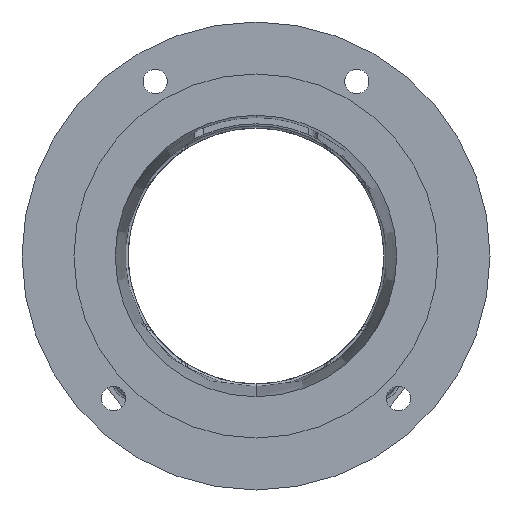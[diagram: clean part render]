
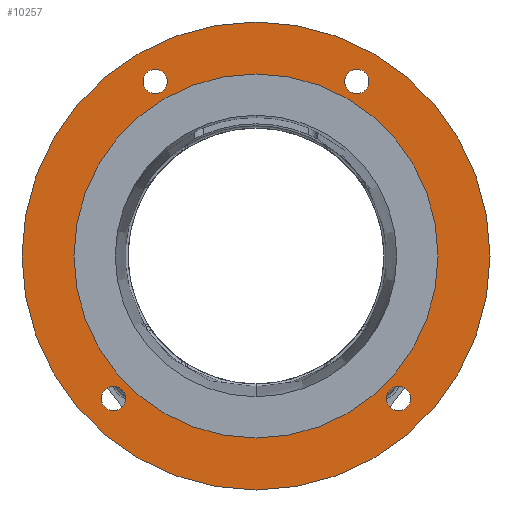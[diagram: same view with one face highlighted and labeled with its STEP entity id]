
A CAD part, front view. The second image highlights one B-rep face of the part: STEP entity #10257.
In plain terms, the highlighted planar face has unit normal (0, -1, 0).
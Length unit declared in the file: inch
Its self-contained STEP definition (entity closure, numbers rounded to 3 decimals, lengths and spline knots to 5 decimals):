
#20 = EDGE_LOOP ( 'NONE', ( #4956, #8640 ) ) ;
#156 = DIRECTION ( 'NONE',  ( 0., 0., -1. ) ) ;
#168 = CARTESIAN_POINT ( 'NONE',  ( 1.9375, 0., 3.12147 ) ) ;
#273 = EDGE_CURVE ( 'NONE', #1668, #497, #2331, .T. ) ;
#278 = CARTESIAN_POINT ( 'NONE',  ( -2.74004, 0., -2.74004 ) ) ;
#294 = CARTESIAN_POINT ( 'NONE',  ( -1.9375, 0., 3.35585 ) ) ;
#497 = VERTEX_POINT ( 'NONE', #168 ) ;
#561 = DIRECTION ( 'NONE',  ( 0., 0., -1. ) ) ;
#575 = AXIS2_PLACEMENT_3D ( 'NONE', #2040, #2021, #2014 ) ;
#588 = EDGE_LOOP ( 'NONE', ( #6639, #3210 ) ) ;
#719 = ORIENTED_EDGE ( 'NONE', *, *, #3630, .F. ) ;
#762 = AXIS2_PLACEMENT_3D ( 'NONE', #9439, #3372, #2975 ) ;
#848 = FACE_OUTER_BOUND ( 'NONE', #9440, .T. ) ;
#972 = VERTEX_POINT ( 'NONE', #8184 ) ;
#994 = VERTEX_POINT ( 'NONE', #8212 ) ;
#1114 = FACE_BOUND ( 'NONE', #10573, .T. ) ;
#1153 = CARTESIAN_POINT ( 'NONE',  ( 2.74004, 0., -2.97441 ) ) ;
#1162 = DIRECTION ( 'NONE',  ( 0., 0., -1. ) ) ;
#1177 = DIRECTION ( 'NONE',  ( 0., 0., -1. ) ) ;
#1219 = AXIS2_PLACEMENT_3D ( 'NONE', #294, #6179, #1177 ) ;
#1261 = AXIS2_PLACEMENT_3D ( 'NONE', #9243, #9221, #9185 ) ;
#1614 = CIRCLE ( 'NONE', #3424, 0.23438 ) ;
#1668 = VERTEX_POINT ( 'NONE', #3948 ) ;
#1856 = CIRCLE ( 'NONE', #3698, 3.501 ) ;
#2014 = DIRECTION ( 'NONE',  ( 0., 0., -1. ) ) ;
#2021 = DIRECTION ( 'NONE',  ( 0., -1., 0. ) ) ;
#2040 = CARTESIAN_POINT ( 'NONE',  ( 1.9375, 0., 3.35585 ) ) ;
#2081 = EDGE_LOOP ( 'NONE', ( #719, #5501 ) ) ;
#2180 = CARTESIAN_POINT ( 'NONE',  ( 0., 0., 4.5 ) ) ;
#2331 = CIRCLE ( 'NONE', #575, 0.23438 ) ;
#2744 = VERTEX_POINT ( 'NONE', #1153 ) ;
#2975 = DIRECTION ( 'NONE',  ( 0., 0., -1. ) ) ;
#3078 = AXIS2_PLACEMENT_3D ( 'NONE', #10135, #5237, #156 ) ;
#3133 = FACE_BOUND ( 'NONE', #9182, .T. ) ;
#3210 = ORIENTED_EDGE ( 'NONE', *, *, #3892, .F. ) ;
#3271 = EDGE_CURVE ( 'NONE', #9691, #5103, #8350, .T. ) ;
#3367 = DIRECTION ( 'NONE',  ( 0., 1., 0. ) ) ;
#3372 = DIRECTION ( 'NONE',  ( 0., -1., 0. ) ) ;
#3424 = AXIS2_PLACEMENT_3D ( 'NONE', #9001, #8985, #8960 ) ;
#3630 = EDGE_CURVE ( 'NONE', #497, #1668, #8759, .T. ) ;
#3698 = AXIS2_PLACEMENT_3D ( 'NONE', #5012, #4752, #4338 ) ;
#3709 = VERTEX_POINT ( 'NONE', #5403 ) ;
#3732 = CIRCLE ( 'NONE', #3778, 4.5 ) ;
#3778 = AXIS2_PLACEMENT_3D ( 'NONE', #5818, #5807, #5796 ) ;
#3892 = EDGE_CURVE ( 'NONE', #9831, #2744, #5028, .T. ) ;
#3948 = CARTESIAN_POINT ( 'NONE',  ( 1.9375, 0., 3.59022 ) ) ;
#3987 = CARTESIAN_POINT ( 'NONE',  ( -1.9375, 0., 3.12147 ) ) ;
#4048 = CIRCLE ( 'NONE', #1219, 0.23438 ) ;
#4313 = VERTEX_POINT ( 'NONE', #2180 ) ;
#4338 = DIRECTION ( 'NONE',  ( 0., 0., -1. ) ) ;
#4551 = EDGE_CURVE ( 'NONE', #5103, #9691, #1856, .T. ) ;
#4626 = DIRECTION ( 'NONE',  ( 0., 0., -1. ) ) ;
#4658 = DIRECTION ( 'NONE',  ( 0., -1., 0. ) ) ;
#4694 = CARTESIAN_POINT ( 'NONE',  ( 0., 0., 0. ) ) ;
#4716 = AXIS2_PLACEMENT_3D ( 'NONE', #4694, #4658, #4626 ) ;
#4752 = DIRECTION ( 'NONE',  ( 0., -1., 0. ) ) ;
#4861 = CARTESIAN_POINT ( 'NONE',  ( 0., 0., 3.501 ) ) ;
#4956 = ORIENTED_EDGE ( 'NONE', *, *, #9666, .F. ) ;
#5012 = CARTESIAN_POINT ( 'NONE',  ( 0., 0., 0. ) ) ;
#5028 = CIRCLE ( 'NONE', #1261, 0.23438 ) ;
#5103 = VERTEX_POINT ( 'NONE', #4861 ) ;
#5156 = CARTESIAN_POINT ( 'NONE',  ( 0., 0., -4.5 ) ) ;
#5164 = EDGE_CURVE ( 'NONE', #3709, #7278, #8740, .T. ) ;
#5237 = DIRECTION ( 'NONE',  ( 0., -1., 0. ) ) ;
#5325 = FACE_BOUND ( 'NONE', #588, .T. ) ;
#5366 = CARTESIAN_POINT ( 'NONE',  ( 0., 0., -3.501 ) ) ;
#5403 = CARTESIAN_POINT ( 'NONE',  ( -1.9375, 0., 3.59022 ) ) ;
#5435 = AXIS2_PLACEMENT_3D ( 'NONE', #278, #6160, #1162 ) ;
#5501 = ORIENTED_EDGE ( 'NONE', *, *, #273, .F. ) ;
#5505 = EDGE_CURVE ( 'NONE', #994, #972, #1614, .T. ) ;
#5608 = CARTESIAN_POINT ( 'NONE',  ( -4.5, 0., 0. ) ) ;
#5623 = DIRECTION ( 'NONE',  ( 0., -1., 0. ) ) ;
#5652 = ORIENTED_EDGE ( 'NONE', *, *, #8826, .F. ) ;
#5749 = CIRCLE ( 'NONE', #3078, 0.23438 ) ;
#5796 = DIRECTION ( 'NONE',  ( 0., 0., -1. ) ) ;
#5807 = DIRECTION ( 'NONE',  ( 0., -1., 0. ) ) ;
#5818 = CARTESIAN_POINT ( 'NONE',  ( 0., 0., 0. ) ) ;
#5863 = EDGE_CURVE ( 'NONE', #10590, #4313, #3732, .T. ) ;
#6035 = DIRECTION ( 'NONE',  ( 0., 0., -1. ) ) ;
#6060 = DIRECTION ( 'NONE',  ( 0., -1., 0. ) ) ;
#6112 = CARTESIAN_POINT ( 'NONE',  ( 1.9375, 0., 3.35585 ) ) ;
#6160 = DIRECTION ( 'NONE',  ( 0., -1., 0. ) ) ;
#6179 = DIRECTION ( 'NONE',  ( 0., -1., 0. ) ) ;
#6639 = ORIENTED_EDGE ( 'NONE', *, *, #8231, .F. ) ;
#7199 = ORIENTED_EDGE ( 'NONE', *, *, #4551, .F. ) ;
#7278 = VERTEX_POINT ( 'NONE', #3987 ) ;
#7488 = AXIS2_PLACEMENT_3D ( 'NONE', #5608, #3367, #9101 ) ;
#7495 = FACE_BOUND ( 'NONE', #20, .T. ) ;
#8081 = CARTESIAN_POINT ( 'NONE',  ( 2.74004, 0., -2.50566 ) ) ;
#8184 = CARTESIAN_POINT ( 'NONE',  ( -2.74004, 0., -2.50566 ) ) ;
#8212 = CARTESIAN_POINT ( 'NONE',  ( -2.74004, 0., -2.97441 ) ) ;
#8231 = EDGE_CURVE ( 'NONE', #2744, #9831, #5749, .T. ) ;
#8268 = PLANE ( 'NONE',  #7488 ) ;
#8349 = ORIENTED_EDGE ( 'NONE', *, *, #3271, .F. ) ;
#8350 = CIRCLE ( 'NONE', #4716, 3.501 ) ;
#8401 = CIRCLE ( 'NONE', #5435, 0.23438 ) ;
#8435 = AXIS2_PLACEMENT_3D ( 'NONE', #10509, #5623, #561 ) ;
#8640 = ORIENTED_EDGE ( 'NONE', *, *, #5164, .F. ) ;
#8740 = CIRCLE ( 'NONE', #762, 0.23438 ) ;
#8759 = CIRCLE ( 'NONE', #9993, 0.23438 ) ;
#8826 = EDGE_CURVE ( 'NONE', #972, #994, #8401, .T. ) ;
#8960 = DIRECTION ( 'NONE',  ( 0., 0., -1. ) ) ;
#8985 = DIRECTION ( 'NONE',  ( 0., -1., 0. ) ) ;
#9001 = CARTESIAN_POINT ( 'NONE',  ( -2.74004, 0., -2.74004 ) ) ;
#9101 = DIRECTION ( 'NONE',  ( 0., 0., 1. ) ) ;
#9182 = EDGE_LOOP ( 'NONE', ( #8349, #7199 ) ) ;
#9185 = DIRECTION ( 'NONE',  ( 0., 0., -1. ) ) ;
#9200 = ORIENTED_EDGE ( 'NONE', *, *, #5505, .F. ) ;
#9221 = DIRECTION ( 'NONE',  ( 0., -1., 0. ) ) ;
#9243 = CARTESIAN_POINT ( 'NONE',  ( 2.74004, 0., -2.74004 ) ) ;
#9297 = ORIENTED_EDGE ( 'NONE', *, *, #5863, .T. ) ;
#9440 = EDGE_LOOP ( 'NONE', ( #9297, #9574 ) ) ;
#9439 = CARTESIAN_POINT ( 'NONE',  ( -1.9375, 0., 3.35585 ) ) ;
#9574 = ORIENTED_EDGE ( 'NONE', *, *, #9797, .T. ) ;
#9666 = EDGE_CURVE ( 'NONE', #7278, #3709, #4048, .T. ) ;
#9678 = FACE_BOUND ( 'NONE', #2081, .T. ) ;
#9691 = VERTEX_POINT ( 'NONE', #5366 ) ;
#9797 = EDGE_CURVE ( 'NONE', #4313, #10590, #10325, .T. ) ;
#9831 = VERTEX_POINT ( 'NONE', #8081 ) ;
#9993 = AXIS2_PLACEMENT_3D ( 'NONE', #6112, #6060, #6035 ) ;
#10135 = CARTESIAN_POINT ( 'NONE',  ( 2.74004, 0., -2.74004 ) ) ;
#10257 = ADVANCED_FACE ( 'NONE', ( #7495, #9678, #5325, #1114, #3133, #848 ), #8268, .F. ) ;
#10325 = CIRCLE ( 'NONE', #8435, 4.5 ) ;
#10509 = CARTESIAN_POINT ( 'NONE',  ( 0., 0., 0. ) ) ;
#10573 = EDGE_LOOP ( 'NONE', ( #9200, #5652 ) ) ;
#10590 = VERTEX_POINT ( 'NONE', #5156 ) ;
